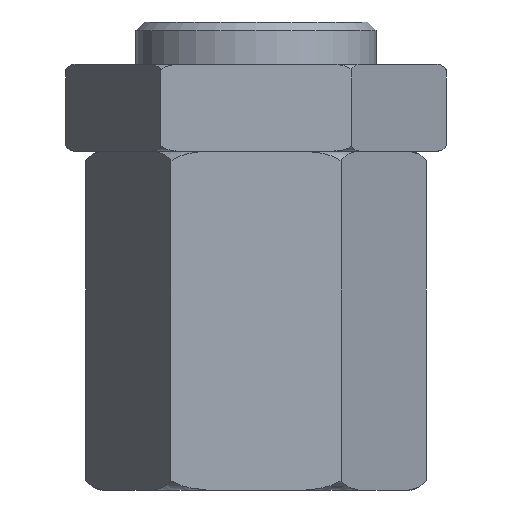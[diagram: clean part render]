
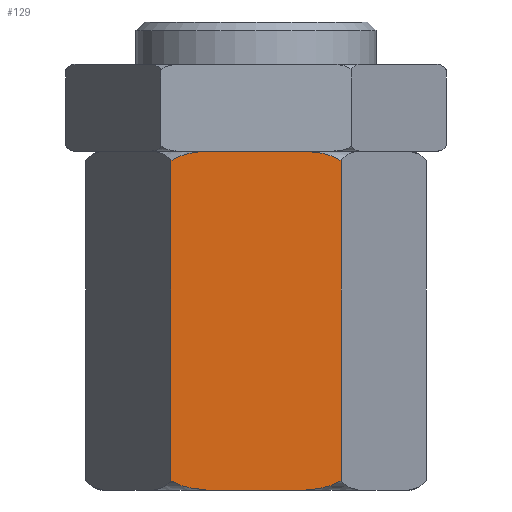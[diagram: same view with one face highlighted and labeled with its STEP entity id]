
A CAD part, front view. The second image highlights one B-rep face of the part: STEP entity #129.
In plain terms, the highlighted planar face has unit normal (0, -1, 0).
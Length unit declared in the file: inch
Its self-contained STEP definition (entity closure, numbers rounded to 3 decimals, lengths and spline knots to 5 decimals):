
#9 = CARTESIAN_POINT ( 'NONE',  ( -0.19321, -0.33465, -1.04121 ) ) ;
#27 = DIRECTION ( 'NONE',  ( 0., 0., 1. ) ) ;
#66 = LINE ( 'NONE', #1419, #2447 ) ;
#129 = ADVANCED_FACE ( 'NONE', ( #1570 ), #1823, .T. ) ;
#159 = CARTESIAN_POINT ( 'NONE',  ( 0.16113, -0.33465, -1.05556 ) ) ;
#169 = CARTESIAN_POINT ( 'NONE',  ( -0.12689, -0.33465, -1.06201 ) ) ;
#174 = DIRECTION ( 'NONE',  ( 0., 0., 1. ) ) ;
#183 = CARTESIAN_POINT ( 'NONE',  ( -0.16794, -0.33465, -0.30275 ) ) ;
#200 = CARTESIAN_POINT ( 'NONE',  ( 0.12689, -0.33465, -0.29429 ) ) ;
#206 = CARTESIAN_POINT ( 'NONE',  ( -0.19321, -0.33465, -0.31509 ) ) ;
#331 = VERTEX_POINT ( 'NONE', #2234 ) ;
#476 = VERTEX_POINT ( 'NONE', #1391 ) ;
#543 = DIRECTION ( 'NONE',  ( 1., 0., 0. ) ) ;
#580 = CARTESIAN_POINT ( 'NONE',  ( -0.11289, -0.33465, -1.06299 ) ) ;
#588 = LINE ( 'NONE', #1730, #2071 ) ;
#616 = VERTEX_POINT ( 'NONE', #2460 ) ;
#674 = CARTESIAN_POINT ( 'NONE',  ( -0.19321, -0.33465, -1.06299 ) ) ;
#676 = ORIENTED_EDGE ( 'NONE', *, *, #1389, .F. ) ;
#696 = ORIENTED_EDGE ( 'NONE', *, *, #2244, .T. ) ;
#714 = VERTEX_POINT ( 'NONE', #1754 ) ;
#728 = EDGE_CURVE ( 'NONE', #1796, #1805, #2207, .T. ) ;
#755 = ORIENTED_EDGE ( 'NONE', *, *, #986, .F. ) ;
#804 = CARTESIAN_POINT ( 'NONE',  ( 0.18745, -0.33465, -0.31111 ) ) ;
#871 = DIRECTION ( 'NONE',  ( 0., -1., 0. ) ) ;
#946 = AXIS2_PLACEMENT_3D ( 'NONE', #674, #871, #2190 ) ;
#949 = CARTESIAN_POINT ( 'NONE',  ( 0.11289, -0.33465, -0.29331 ) ) ;
#973 = CARTESIAN_POINT ( 'NONE',  ( -0.18107, -0.33465, -0.30793 ) ) ;
#986 = EDGE_CURVE ( 'NONE', #1671, #476, #2364, .T. ) ;
#988 = CARTESIAN_POINT ( 'NONE',  ( -0.12685, -0.33465, -0.29429 ) ) ;
#992 = CARTESIAN_POINT ( 'NONE',  ( 0.11289, -0.33465, -0.29331 ) ) ;
#1049 = ORIENTED_EDGE ( 'NONE', *, *, #2450, .T. ) ;
#1081 = ORIENTED_EDGE ( 'NONE', *, *, #2061, .F. ) ;
#1111 = B_SPLINE_CURVE_WITH_KNOTS ( 'NONE', 3,
 ( #580, #169, #2123, #1966, #1172, #1590, #1956, #9 ),
 .UNSPECIFIED., .F., .F.,
 ( 4, 2, 2, 4 ),
 ( 0.00287, 0.00394, 0.00447, 0.005 ),
 .UNSPECIFIED. ) ;
#1155 = CARTESIAN_POINT ( 'NONE',  ( -0.18737, -0.33465, -0.31105 ) ) ;
#1172 = CARTESIAN_POINT ( 'NONE',  ( -0.16799, -0.33465, -1.05352 ) ) ;
#1173 = CARTESIAN_POINT ( 'NONE',  ( -0.1407, -0.33465, -0.29594 ) ) ;
#1175 = DIRECTION ( 'NONE',  ( -1., 0., 0. ) ) ;
#1285 = CARTESIAN_POINT ( 'NONE',  ( 0.19321, -0.33465, -1.04121 ) ) ;
#1292 = CARTESIAN_POINT ( 'NONE',  ( 0.18737, -0.33465, -1.04524 ) ) ;
#1322 = CARTESIAN_POINT ( 'NONE',  ( 0.11289, -0.33465, -1.06299 ) ) ;
#1365 = CARTESIAN_POINT ( 'NONE',  ( 0.16799, -0.33465, -0.30277 ) ) ;
#1388 = CARTESIAN_POINT ( 'NONE',  ( -0.19321, -0.33465, -0.29331 ) ) ;
#1389 = EDGE_CURVE ( 'NONE', #331, #1671, #1111, .T. ) ;
#1391 = CARTESIAN_POINT ( 'NONE',  ( -0.19321, -0.33465, -0.31509 ) ) ;
#1419 = CARTESIAN_POINT ( 'NONE',  ( 0.19321, -0.33465, -1.06299 ) ) ;
#1451 = ORIENTED_EDGE ( 'NONE', *, *, #2310, .F. ) ;
#1517 = CARTESIAN_POINT ( 'NONE',  ( 0.19321, -0.33465, -0.31509 ) ) ;
#1570 = FACE_OUTER_BOUND ( 'NONE', #2078, .T. ) ;
#1590 = CARTESIAN_POINT ( 'NONE',  ( -0.18108, -0.33465, -1.04837 ) ) ;
#1671 = VERTEX_POINT ( 'NONE', #2039 ) ;
#1697 = B_SPLINE_CURVE_WITH_KNOTS ( 'NONE', 3,
 ( #206, #1155, #973, #183, #1947, #1173, #988, #2316 ),
 .UNSPECIFIED., .F., .F.,
 ( 4, 2, 2, 4 ),
 ( 0.01911, 0.01965, 0.02019, 0.02126 ),
 .UNSPECIFIED. ) ;
#1700 = CARTESIAN_POINT ( 'NONE',  ( -0.11289, -0.33465, -0.29331 ) ) ;
#1706 = CARTESIAN_POINT ( 'NONE',  ( 0.16794, -0.33465, -1.05354 ) ) ;
#1730 = CARTESIAN_POINT ( 'NONE',  ( -0.19321, -0.33465, -1.06299 ) ) ;
#1734 = CARTESIAN_POINT ( 'NONE',  ( 0.19321, -0.33465, -0.31509 ) ) ;
#1754 = CARTESIAN_POINT ( 'NONE',  ( 0.19321, -0.33465, -1.04121 ) ) ;
#1760 = VERTEX_POINT ( 'NONE', #1700 ) ;
#1796 = VERTEX_POINT ( 'NONE', #949 ) ;
#1805 = VERTEX_POINT ( 'NONE', #1517 ) ;
#1823 = PLANE ( 'NONE',  #946 ) ;
#1913 = EDGE_CURVE ( 'NONE', #1796, #1760, #2040, .T. ) ;
#1938 = B_SPLINE_CURVE_WITH_KNOTS ( 'NONE', 3,
 ( #1285, #1292, #2111, #1706, #159, #2094, #2452, #1322 ),
 .UNSPECIFIED., .F., .F.,
 ( 4, 2, 2, 4 ),
 ( 0.01911, 0.01965, 0.02019, 0.02126 ),
 .UNSPECIFIED. ) ;
#1947 = CARTESIAN_POINT ( 'NONE',  ( -0.16113, -0.33465, -0.30074 ) ) ;
#1953 = CARTESIAN_POINT ( 'NONE',  ( 0.18108, -0.33465, -0.30793 ) ) ;
#1956 = CARTESIAN_POINT ( 'NONE',  ( -0.18745, -0.33465, -1.04519 ) ) ;
#1966 = CARTESIAN_POINT ( 'NONE',  ( -0.16121, -0.33465, -1.05553 ) ) ;
#2016 = VECTOR ( 'NONE', #1175, 39.37008 ) ;
#2019 = VECTOR ( 'NONE', #174, 39.37008 ) ;
#2039 = CARTESIAN_POINT ( 'NONE',  ( -0.19321, -0.33465, -1.04121 ) ) ;
#2040 = LINE ( 'NONE', #1388, #2016 ) ;
#2061 = EDGE_CURVE ( 'NONE', #714, #616, #1938, .T. ) ;
#2064 = ORIENTED_EDGE ( 'NONE', *, *, #728, .F. ) ;
#2071 = VECTOR ( 'NONE', #543, 39.37008 ) ;
#2078 = EDGE_LOOP ( 'NONE', ( #676, #696, #1081, #1049, #2064, #2481, #1451, #755 ) ) ;
#2094 = CARTESIAN_POINT ( 'NONE',  ( 0.1407, -0.33465, -1.06036 ) ) ;
#2111 = CARTESIAN_POINT ( 'NONE',  ( 0.18107, -0.33465, -1.04837 ) ) ;
#2123 = CARTESIAN_POINT ( 'NONE',  ( -0.14078, -0.33465, -1.06034 ) ) ;
#2142 = CARTESIAN_POINT ( 'NONE',  ( 0.14078, -0.33465, -0.29596 ) ) ;
#2190 = DIRECTION ( 'NONE',  ( 1., 0., 0. ) ) ;
#2207 = B_SPLINE_CURVE_WITH_KNOTS ( 'NONE', 3,
 ( #992, #200, #2142, #2504, #1365, #1953, #804, #1734 ),
 .UNSPECIFIED., .F., .F.,
 ( 4, 2, 2, 4 ),
 ( 0.00287, 0.00394, 0.00447, 0.005 ),
 .UNSPECIFIED. ) ;
#2234 = CARTESIAN_POINT ( 'NONE',  ( -0.11289, -0.33465, -1.06299 ) ) ;
#2244 = EDGE_CURVE ( 'NONE', #331, #616, #588, .T. ) ;
#2303 = CARTESIAN_POINT ( 'NONE',  ( -0.19321, -0.33465, -1.06299 ) ) ;
#2310 = EDGE_CURVE ( 'NONE', #476, #1760, #1697, .T. ) ;
#2316 = CARTESIAN_POINT ( 'NONE',  ( -0.11289, -0.33465, -0.29331 ) ) ;
#2364 = LINE ( 'NONE', #2303, #2019 ) ;
#2447 = VECTOR ( 'NONE', #27, 39.37008 ) ;
#2450 = EDGE_CURVE ( 'NONE', #714, #1805, #66, .T. ) ;
#2452 = CARTESIAN_POINT ( 'NONE',  ( 0.12685, -0.33465, -1.06201 ) ) ;
#2460 = CARTESIAN_POINT ( 'NONE',  ( 0.11289, -0.33465, -1.06299 ) ) ;
#2481 = ORIENTED_EDGE ( 'NONE', *, *, #1913, .T. ) ;
#2504 = CARTESIAN_POINT ( 'NONE',  ( 0.16121, -0.33465, -0.30076 ) ) ;
